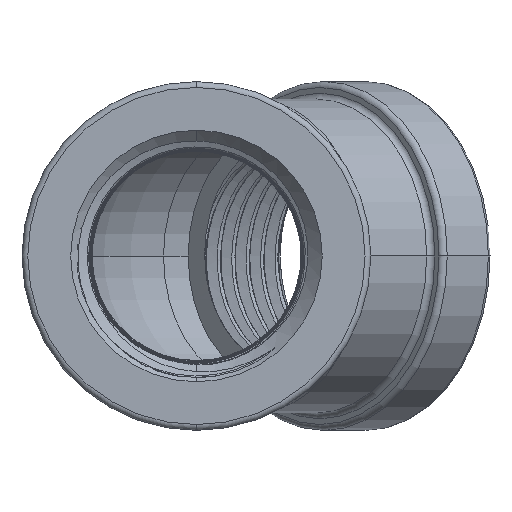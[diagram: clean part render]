
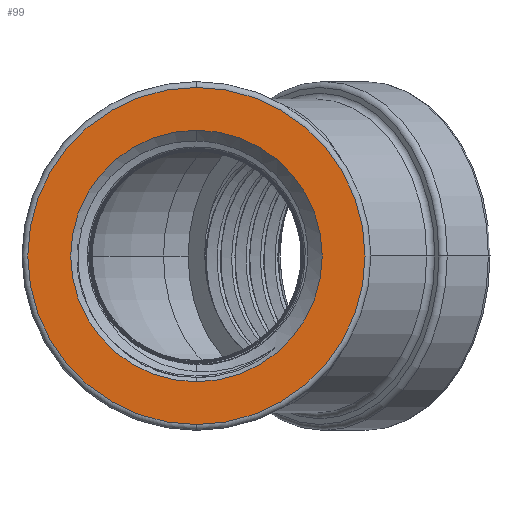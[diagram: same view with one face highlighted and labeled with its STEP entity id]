
A CAD part, front view. The second image highlights one B-rep face of the part: STEP entity #99.
In plain terms, the highlighted planar face has unit normal (0, -1, 0).
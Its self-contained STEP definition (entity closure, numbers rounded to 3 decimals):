
#84 = EDGE_LOOP ( 'NONE', ( #698, #3103 ) ) ;
#99 = ADVANCED_FACE ( 'NONE', ( #5625, #4815 ), #5521, .F. ) ;
#178 = VERTEX_POINT ( 'NONE', #3738 ) ;
#313 = CARTESIAN_POINT ( 'NONE',  ( 0., 0., 14.5 ) ) ;
#441 = CIRCLE ( 'NONE', #7407, 14.5 ) ;
#632 = DIRECTION ( 'NONE',  ( 0., 0., 1. ) ) ;
#698 = ORIENTED_EDGE ( 'NONE', *, *, #5613, .T. ) ;
#765 = CARTESIAN_POINT ( 'NONE',  ( 0., 0., 0. ) ) ;
#898 = CIRCLE ( 'NONE', #2496, 14.5 ) ;
#1729 = CARTESIAN_POINT ( 'NONE',  ( 0., 0., 0. ) ) ;
#1844 = AXIS2_PLACEMENT_3D ( 'NONE', #7923, #7251, #6494 ) ;
#2341 = CARTESIAN_POINT ( 'NONE',  ( 0., 0., 0. ) ) ;
#2399 = ORIENTED_EDGE ( 'NONE', *, *, #4393, .T. ) ;
#2415 = CARTESIAN_POINT ( 'NONE',  ( 0., 0., -10.816 ) ) ;
#2496 = AXIS2_PLACEMENT_3D ( 'NONE', #2341, #7085, #8601 ) ;
#2618 = CARTESIAN_POINT ( 'NONE',  ( 0., 0., 0. ) ) ;
#2729 = DIRECTION ( 'NONE',  ( 0., 0., 1. ) ) ;
#3103 = ORIENTED_EDGE ( 'NONE', *, *, #8593, .T. ) ;
#3327 = ORIENTED_EDGE ( 'NONE', *, *, #6686, .T. ) ;
#3738 = CARTESIAN_POINT ( 'NONE',  ( 0., 0., -14.5 ) ) ;
#4147 = CIRCLE ( 'NONE', #1844, 10.816 ) ;
#4393 = EDGE_CURVE ( 'NONE', #178, #6012, #898, .T. ) ;
#4406 = VERTEX_POINT ( 'NONE', #4656 ) ;
#4628 = AXIS2_PLACEMENT_3D ( 'NONE', #1729, #7918, #8617 ) ;
#4656 = CARTESIAN_POINT ( 'NONE',  ( 0., 0., 10.816 ) ) ;
#4815 = FACE_BOUND ( 'NONE', #84, .T. ) ;
#5521 = PLANE ( 'NONE',  #4628 ) ;
#5613 = EDGE_CURVE ( 'NONE', #6967, #4406, #4147, .T. ) ;
#5625 = FACE_OUTER_BOUND ( 'NONE', #8123, .T. ) ;
#5742 = DIRECTION ( 'NONE',  ( 0., -1., 0. ) ) ;
#6012 = VERTEX_POINT ( 'NONE', #313 ) ;
#6494 = DIRECTION ( 'NONE',  ( 0., 0., 1. ) ) ;
#6686 = EDGE_CURVE ( 'NONE', #6012, #178, #441, .T. ) ;
#6883 = DIRECTION ( 'NONE',  ( 0., 1., 0. ) ) ;
#6967 = VERTEX_POINT ( 'NONE', #2415 ) ;
#7085 = DIRECTION ( 'NONE',  ( 0., -1., 0. ) ) ;
#7251 = DIRECTION ( 'NONE',  ( 0., 1., 0. ) ) ;
#7407 = AXIS2_PLACEMENT_3D ( 'NONE', #2618, #5742, #2729 ) ;
#7727 = AXIS2_PLACEMENT_3D ( 'NONE', #765, #6883, #632 ) ;
#7918 = DIRECTION ( 'NONE',  ( 0., 1., 0. ) ) ;
#7923 = CARTESIAN_POINT ( 'NONE',  ( 0., 0., 0. ) ) ;
#8123 = EDGE_LOOP ( 'NONE', ( #3327, #2399 ) ) ;
#8593 = EDGE_CURVE ( 'NONE', #4406, #6967, #9187, .T. ) ;
#8601 = DIRECTION ( 'NONE',  ( 0., 0., 1. ) ) ;
#8617 = DIRECTION ( 'NONE',  ( 0., 0., 1. ) ) ;
#9187 = CIRCLE ( 'NONE', #7727, 10.816 ) ;
